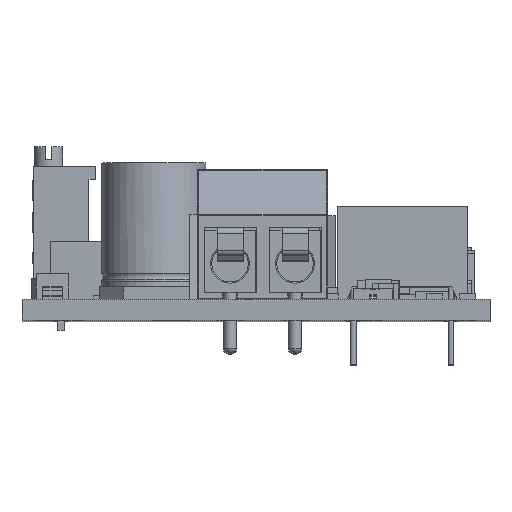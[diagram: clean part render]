
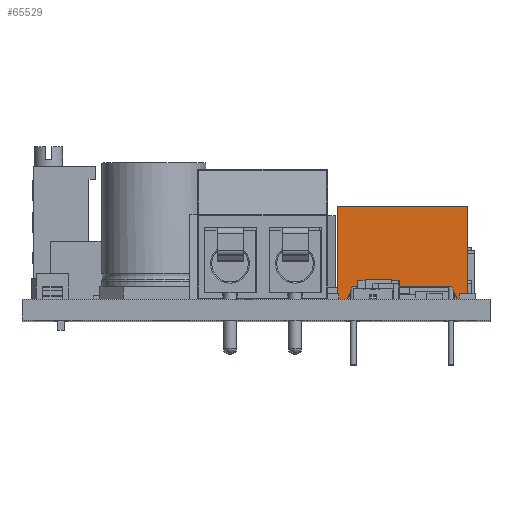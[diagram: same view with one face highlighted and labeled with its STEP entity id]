
A CAD part, top view. The second image highlights one B-rep face of the part: STEP entity #65529.
In plain terms, the highlighted planar face has unit normal (0, 0, 1) as drawn and (-1, 0, 0) by its records, which use the part's own axes.
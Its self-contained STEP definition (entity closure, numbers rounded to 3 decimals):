
#3572=PLANE('',#69172);
#6937=FACE_OUTER_BOUND('',#10741,.T.);
#10741=EDGE_LOOP('',(#57291,#57292,#57293,#57294,#57295,#57296,#57297,#57298));
#17132=LINE('',#112231,#23723);
#17133=LINE('',#112234,#23724);
#17134=LINE('',#112236,#23725);
#17135=LINE('',#112238,#23726);
#17136=LINE('',#112240,#23727);
#17137=LINE('',#112242,#23728);
#17138=LINE('',#112244,#23729);
#17139=LINE('',#112245,#23730);
#23723=VECTOR('',#81314,1000.);
#23724=VECTOR('',#81317,1000.);
#23725=VECTOR('',#81318,1000.);
#23726=VECTOR('',#81319,1000.);
#23727=VECTOR('',#81320,1000.);
#23728=VECTOR('',#81321,1000.);
#23729=VECTOR('',#81322,1000.);
#23730=VECTOR('',#81323,1000.);
#31417=VERTEX_POINT('',#112224);
#31420=VERTEX_POINT('',#112229);
#31421=VERTEX_POINT('',#112233);
#31422=VERTEX_POINT('',#112235);
#31423=VERTEX_POINT('',#112237);
#31424=VERTEX_POINT('',#112239);
#31425=VERTEX_POINT('',#112241);
#31426=VERTEX_POINT('',#112243);
#40096=EDGE_CURVE('',#31417,#31420,#17132,.T.);
#40097=EDGE_CURVE('',#31421,#31420,#17133,.T.);
#40098=EDGE_CURVE('',#31422,#31421,#17134,.T.);
#40099=EDGE_CURVE('',#31423,#31422,#17135,.T.);
#40100=EDGE_CURVE('',#31423,#31424,#17136,.T.);
#40101=EDGE_CURVE('',#31424,#31425,#17137,.T.);
#40102=EDGE_CURVE('',#31426,#31425,#17138,.T.);
#40103=EDGE_CURVE('',#31417,#31426,#17139,.T.);
#57291=ORIENTED_EDGE('',*,*,#40097,.F.);
#57292=ORIENTED_EDGE('',*,*,#40098,.F.);
#57293=ORIENTED_EDGE('',*,*,#40099,.F.);
#57294=ORIENTED_EDGE('',*,*,#40100,.T.);
#57295=ORIENTED_EDGE('',*,*,#40101,.T.);
#57296=ORIENTED_EDGE('',*,*,#40102,.F.);
#57297=ORIENTED_EDGE('',*,*,#40103,.F.);
#57298=ORIENTED_EDGE('',*,*,#40096,.T.);
#65529=ADVANCED_FACE('',(#6937),#3572,.T.);
#69172=AXIS2_PLACEMENT_3D('',#112232,#81315,#81316);
#81314=DIRECTION('',(0.,0.,1.));
#81315=DIRECTION('center_axis',(-1.,0.,0.));
#81316=DIRECTION('ref_axis',(0.,0.,1.));
#81317=DIRECTION('',(0.,-0.924,-0.383));
#81318=DIRECTION('',(0.,0.,-1.));
#81319=DIRECTION('',(0.,0.924,-0.383));
#81320=DIRECTION('',(0.,0.,1.));
#81321=DIRECTION('',(0.,1.,0.));
#81322=DIRECTION('',(0.,0.,1.));
#81323=DIRECTION('',(0.,1.,0.));
#112224=CARTESIAN_POINT('',(-11.25,-7.2,-5.));
#112229=CARTESIAN_POINT('',(-11.25,-7.2,-4.25));
#112231=CARTESIAN_POINT('',(-11.25,-7.2,-5.));
#112232=CARTESIAN_POINT('Origin',(-11.25,-7.2,-5.));
#112233=CARTESIAN_POINT('',(-11.25,-6.2,-3.836));
#112234=CARTESIAN_POINT('',(-11.25,-7.465,-4.36));
#112235=CARTESIAN_POINT('',(-11.25,-6.2,3.836));
#112236=CARTESIAN_POINT('',(-11.25,-6.2,-5.));
#112237=CARTESIAN_POINT('',(-11.25,-7.2,4.25));
#112238=CARTESIAN_POINT('',(-11.25,-3.93,2.895));
#112239=CARTESIAN_POINT('',(-11.25,-7.2,5.));
#112240=CARTESIAN_POINT('',(-11.25,-7.2,-5.));
#112241=CARTESIAN_POINT('',(-11.25,0.,5.));
#112242=CARTESIAN_POINT('',(-11.25,-7.2,5.));
#112243=CARTESIAN_POINT('',(-11.25,0.,-5.));
#112244=CARTESIAN_POINT('',(-11.25,0.,-5.));
#112245=CARTESIAN_POINT('',(-11.25,-7.2,-5.));
